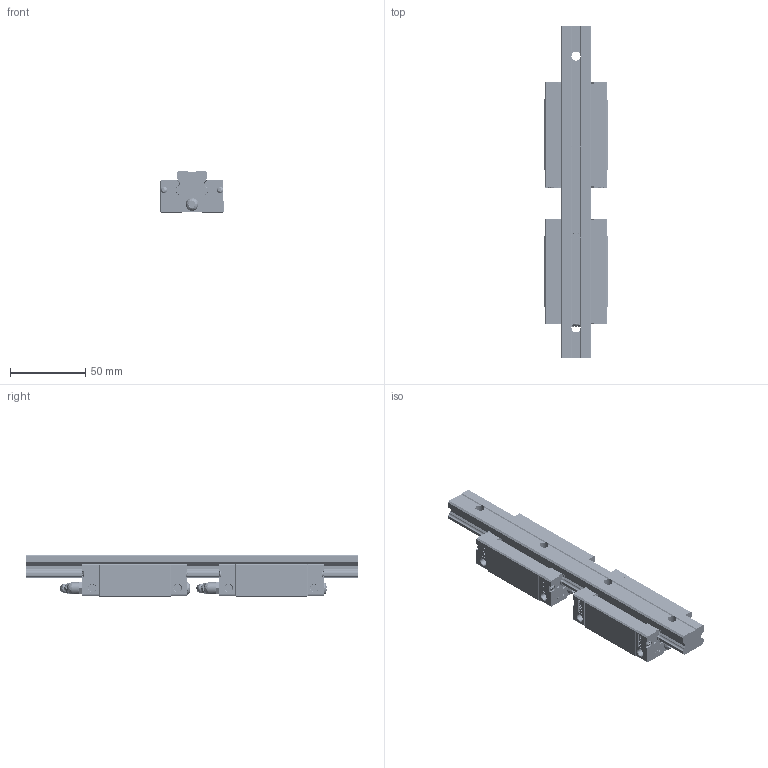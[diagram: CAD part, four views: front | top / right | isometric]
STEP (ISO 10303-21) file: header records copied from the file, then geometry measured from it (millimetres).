
FILE_DESCRIPTION((''),'2;1');
FILE_NAME('GH20CA2R220_ASM','2026-08-06T11:15:45',('Administrator'),(''),'CREO PARAMETRIC BY PTC INC, 2019010','CREO PARAMETRIC BY PTC INC, 2019010','');
FILE_SCHEMA(('CONFIG_CONTROL_DESIGN'));
Products named in the file (15): E2000; E20B00; E20000; M25; M2502; M2503; M2504; PRT0001; 2M600; PRT0002; M600_ASM; M600; EGH20CA000_ASM; GH20CA2R220_ASM
Assembly tree (17 placements, depth 4):
  GH20CA2R220_ASM
    E2000
    EGH20CA000_ASM  x2
      E20B00
      E20000
      E2000
      M25
      M2502
      M2503
      M2504
      M600_ASM
        PRT0001
        2M600
        PRT0002
      M600
Bounding box: 42 x 220 x 28 mm (x, y, z)
Volume: 142251.6 mm3; surface area: 68309 mm2
Topology: 33 solids, 61 shells, 4208 faces, 11548 edges, 7500 vertices
Faces by surface type: plane 2358, cylinder 1174, cone 322, bspline 266, torus 80, sphere 8
Entity records: 93531 total; most frequent: CARTESIAN_POINT 56381, ORIENTED_EDGE 8238, DIRECTION 6686, EDGE_CURVE 4145, VERTEX_POINT 2694, VECTOR 2494, LINE 2494, AXIS2_PLACEMENT_3D 2096
